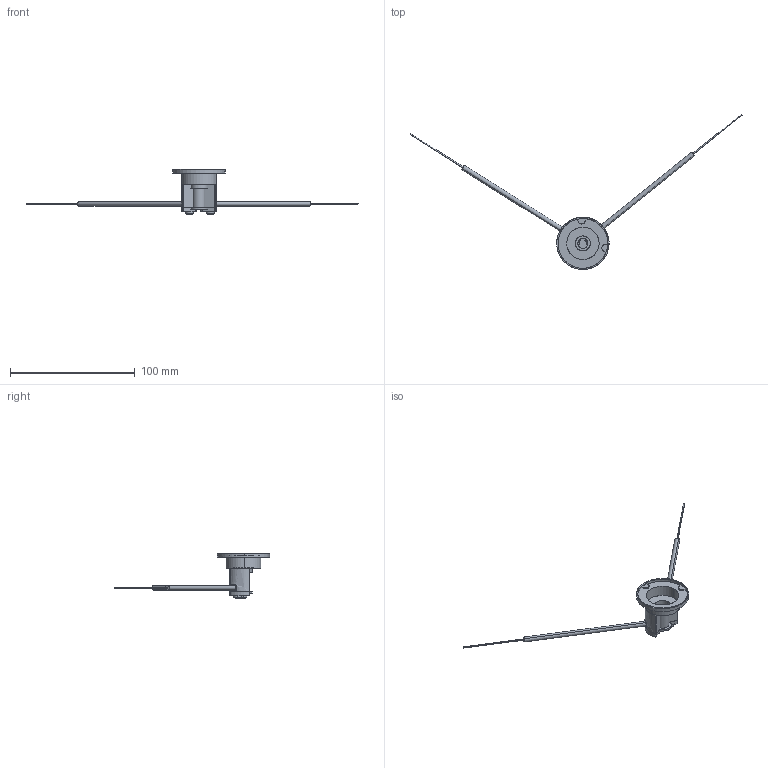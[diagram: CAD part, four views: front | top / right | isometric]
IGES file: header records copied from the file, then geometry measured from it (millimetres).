
Start section: SolidWorks IGES file using analytic representation for surfaces
Global section: file name: C:\Users\Toshiba\Desktop\FU-20PRN.IGS; native system: SolidWorks 2014; preprocessor: SolidWorks 2014; author: Toshiba; date: 160621.093840; units: metre
Bounding box: 266.6 x 124.59 x 36.41 mm (x, y, z)
Surface area: 12453.1 mm2 (no closed solid volume)
Topology: 0 solids, 0 shells, 178 faces, 2686 edges, 2684 vertices
Faces by surface type: bspline 90, revolution 88
